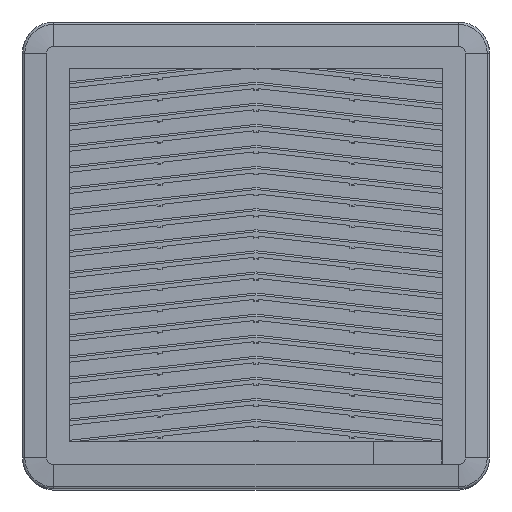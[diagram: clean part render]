
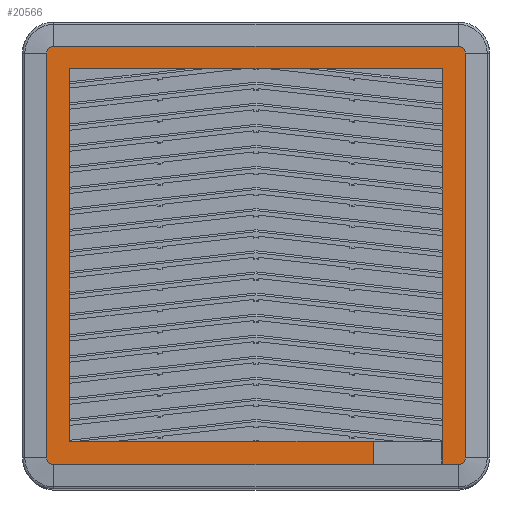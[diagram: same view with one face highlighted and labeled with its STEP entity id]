
A CAD part, front view. The second image highlights one B-rep face of the part: STEP entity #20566.
In plain terms, the highlighted planar face has unit normal (0, -1, 0) as drawn and (0, 0, 1) by its records, which use the part's own axes.
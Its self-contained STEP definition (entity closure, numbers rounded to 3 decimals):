
#304 = VECTOR ( 'NONE', #8721, 1000. ) ;
#785 = VECTOR ( 'NONE', #23267, 1000. ) ;
#1000 = ORIENTED_EDGE ( 'NONE', *, *, #29122, .T. ) ;
#1097 = CIRCLE ( 'NONE', #29845, 3. ) ;
#1974 = CARTESIAN_POINT ( 'NONE',  ( -91.3, 62.489, 3. ) ) ;
#2215 = CARTESIAN_POINT ( 'NONE',  ( -91.3, 65.489, 3. ) ) ;
#2351 = VERTEX_POINT ( 'NONE', #2430 ) ;
#2430 = CARTESIAN_POINT ( 'NONE',  ( -91.3, -114.111, 3. ) ) ;
#2565 = DIRECTION ( 'NONE',  ( 0., -1., 0. ) ) ;
#2608 = ORIENTED_EDGE ( 'NONE', *, *, #13160, .F. ) ;
#2630 = CARTESIAN_POINT ( 'NONE',  ( -81.8, 55.689, 3. ) ) ;
#2633 = VECTOR ( 'NONE', #28491, 1000. ) ;
#2856 = DIRECTION ( 'NONE',  ( 1., 0., 0. ) ) ;
#3028 = LINE ( 'NONE', #14469, #785 ) ;
#3105 = CARTESIAN_POINT ( 'NONE',  ( 88.3, -117.111, 3. ) ) ;
#3436 = DIRECTION ( 'NONE',  ( 0., -1., 0. ) ) ;
#4520 = VERTEX_POINT ( 'NONE', #6760 ) ;
#4966 = VECTOR ( 'NONE', #19858, 1000. ) ;
#5181 = AXIS2_PLACEMENT_3D ( 'NONE', #27567, #30753, #18934 ) ;
#5358 = EDGE_CURVE ( 'NONE', #30641, #22935, #11436, .T. ) ;
#5418 = DIRECTION ( 'NONE',  ( -1., 0., 0. ) ) ;
#6237 = VECTOR ( 'NONE', #5418, 1000. ) ;
#6264 = CARTESIAN_POINT ( 'NONE',  ( -91.3, -25.811, 3. ) ) ;
#6760 = CARTESIAN_POINT ( 'NONE',  ( 91.3, -114.111, 3. ) ) ;
#6806 = VERTEX_POINT ( 'NONE', #3105 ) ;
#6821 = LINE ( 'NONE', #6264, #36109 ) ;
#7233 = LINE ( 'NONE', #36423, #25306 ) ;
#8499 = DIRECTION ( 'NONE',  ( 1., 0., 0. ) ) ;
#8578 = VECTOR ( 'NONE', #36906, 1000. ) ;
#8721 = DIRECTION ( 'NONE',  ( 0., 1., 0. ) ) ;
#9033 = VERTEX_POINT ( 'NONE', #15593 ) ;
#9385 = VERTEX_POINT ( 'NONE', #9924 ) ;
#9924 = CARTESIAN_POINT ( 'NONE',  ( 51.1, -117.011, 3. ) ) ;
#10173 = LINE ( 'NONE', #21582, #8578 ) ;
#10523 = LINE ( 'NONE', #2630, #2633 ) ;
#10730 = ORIENTED_EDGE ( 'NONE', *, *, #23249, .T. ) ;
#11436 = LINE ( 'NONE', #25331, #4966 ) ;
#11664 = VERTEX_POINT ( 'NONE', #18405 ) ;
#11763 = EDGE_CURVE ( 'NONE', #9385, #31133, #10173, .T. ) ;
#12115 = ORIENTED_EDGE ( 'NONE', *, *, #5358, .T. ) ;
#12322 = ORIENTED_EDGE ( 'NONE', *, *, #24894, .T. ) ;
#12521 = CIRCLE ( 'NONE', #17265, 3. ) ;
#12796 = ORIENTED_EDGE ( 'NONE', *, *, #22439, .T. ) ;
#13160 = EDGE_CURVE ( 'NONE', #14794, #24405, #3028, .T. ) ;
#13614 = AXIS2_PLACEMENT_3D ( 'NONE', #2215, #34047, #2565 ) ;
#14183 = PLANE ( 'NONE',  #13614 ) ;
#14469 = CARTESIAN_POINT ( 'NONE',  ( -81.3, -107.611, 3. ) ) ;
#14766 = CARTESIAN_POINT ( 'NONE',  ( -91.3, -117.011, 3. ) ) ;
#14794 = VERTEX_POINT ( 'NONE', #21434 ) ;
#14871 = ORIENTED_EDGE ( 'NONE', *, *, #36659, .F. ) ;
#15593 = CARTESIAN_POINT ( 'NONE',  ( 81.3, 55.689, 3. ) ) ;
#16453 = FACE_BOUND ( 'NONE', #36270, .T. ) ;
#16549 = AXIS2_PLACEMENT_3D ( 'NONE', #19780, #19422, #30885 ) ;
#16571 = LINE ( 'NONE', #34156, #35012 ) ;
#16616 = LINE ( 'NONE', #19769, #304 ) ;
#17116 = CIRCLE ( 'NONE', #16549, 3. ) ;
#17202 = LINE ( 'NONE', #25474, #21322 ) ;
#17265 = AXIS2_PLACEMENT_3D ( 'NONE', #25365, #36757, #2856 ) ;
#18039 = ORIENTED_EDGE ( 'NONE', *, *, #19475, .T. ) ;
#18405 = CARTESIAN_POINT ( 'NONE',  ( -88.3, -117.111, 3. ) ) ;
#18580 = ORIENTED_EDGE ( 'NONE', *, *, #34452, .F. ) ;
#18921 = EDGE_CURVE ( 'NONE', #11664, #6806, #17202, .T. ) ;
#18934 = DIRECTION ( 'NONE',  ( 1., 0., 0. ) ) ;
#19422 = DIRECTION ( 'NONE',  ( 0., 0., 1. ) ) ;
#19475 = EDGE_CURVE ( 'NONE', #6806, #4520, #17116, .T. ) ;
#19769 = CARTESIAN_POINT ( 'NONE',  ( 91.3, -25.811, 3. ) ) ;
#19775 = EDGE_LOOP ( 'NONE', ( #35610, #29230, #18039, #10730, #1000, #12115, #12796, #12322 ) ) ;
#19780 = CARTESIAN_POINT ( 'NONE',  ( 88.3, -114.111, 3. ) ) ;
#19858 = DIRECTION ( 'NONE',  ( -1., 0., 0. ) ) ;
#20566 = ADVANCED_FACE ( 'NONE', ( #34395, #16453 ), #14183, .T. ) ;
#21139 = ORIENTED_EDGE ( 'NONE', *, *, #23646, .F. ) ;
#21322 = VECTOR ( 'NONE', #28645, 1000. ) ;
#21434 = CARTESIAN_POINT ( 'NONE',  ( -81.3, 55.689, 3. ) ) ;
#21582 = CARTESIAN_POINT ( 'NONE',  ( 51.1, 65.489, 3. ) ) ;
#22332 = ORIENTED_EDGE ( 'NONE', *, *, #32803, .T. ) ;
#22439 = EDGE_CURVE ( 'NONE', #22935, #34377, #12521, .T. ) ;
#22811 = LINE ( 'NONE', #14766, #6237 ) ;
#22935 = VERTEX_POINT ( 'NONE', #27671 ) ;
#23249 = EDGE_CURVE ( 'NONE', #4520, #24806, #16616, .T. ) ;
#23267 = DIRECTION ( 'NONE',  ( 0., -1., 0. ) ) ;
#23646 = EDGE_CURVE ( 'NONE', #24405, #31133, #16571, .T. ) ;
#24405 = VERTEX_POINT ( 'NONE', #26924 ) ;
#24693 = CARTESIAN_POINT ( 'NONE',  ( 51.1, -106.811, 3. ) ) ;
#24748 = CARTESIAN_POINT ( 'NONE',  ( 88.3, 65.489, 3. ) ) ;
#24806 = VERTEX_POINT ( 'NONE', #28018 ) ;
#24894 = EDGE_CURVE ( 'NONE', #34377, #2351, #6821, .T. ) ;
#25306 = VECTOR ( 'NONE', #27283, 1000. ) ;
#25331 = CARTESIAN_POINT ( 'NONE',  ( 0., 65.489, 3. ) ) ;
#25365 = CARTESIAN_POINT ( 'NONE',  ( -88.3, 62.489, 3. ) ) ;
#25474 = CARTESIAN_POINT ( 'NONE',  ( 0., -117.111, 3. ) ) ;
#25512 = CARTESIAN_POINT ( 'NONE',  ( -88.3, -114.111, 3. ) ) ;
#26924 = CARTESIAN_POINT ( 'NONE',  ( -81.3, -106.811, 3. ) ) ;
#27283 = DIRECTION ( 'NONE',  ( 0., 1., 0. ) ) ;
#27567 = CARTESIAN_POINT ( 'NONE',  ( 88.3, 62.489, 3. ) ) ;
#27671 = CARTESIAN_POINT ( 'NONE',  ( -88.3, 65.489, 3. ) ) ;
#28018 = CARTESIAN_POINT ( 'NONE',  ( 91.3, 62.489, 3. ) ) ;
#28491 = DIRECTION ( 'NONE',  ( -1., 0., 0. ) ) ;
#28645 = DIRECTION ( 'NONE',  ( 1., 0., 0. ) ) ;
#28682 = DIRECTION ( 'NONE',  ( 0., 0., 1. ) ) ;
#29025 = VERTEX_POINT ( 'NONE', #31929 ) ;
#29122 = EDGE_CURVE ( 'NONE', #24806, #30641, #31505, .T. ) ;
#29230 = ORIENTED_EDGE ( 'NONE', *, *, #18921, .T. ) ;
#29845 = AXIS2_PLACEMENT_3D ( 'NONE', #25512, #28682, #32051 ) ;
#30641 = VERTEX_POINT ( 'NONE', #24748 ) ;
#30753 = DIRECTION ( 'NONE',  ( 0., 0., 1. ) ) ;
#30885 = DIRECTION ( 'NONE',  ( 1., 0., 0. ) ) ;
#31133 = VERTEX_POINT ( 'NONE', #24693 ) ;
#31505 = CIRCLE ( 'NONE', #5181, 3. ) ;
#31929 = CARTESIAN_POINT ( 'NONE',  ( 81.3, -117.011, 3. ) ) ;
#32051 = DIRECTION ( 'NONE',  ( 1., 0., 0. ) ) ;
#32179 = EDGE_CURVE ( 'NONE', #2351, #11664, #1097, .T. ) ;
#32803 = EDGE_CURVE ( 'NONE', #29025, #9385, #22811, .T. ) ;
#34047 = DIRECTION ( 'NONE',  ( 0., 0., 1. ) ) ;
#34156 = CARTESIAN_POINT ( 'NONE',  ( 81.8, -106.811, 3. ) ) ;
#34377 = VERTEX_POINT ( 'NONE', #1974 ) ;
#34395 = FACE_OUTER_BOUND ( 'NONE', #19775, .T. ) ;
#34452 = EDGE_CURVE ( 'NONE', #29025, #9033, #7233, .T. ) ;
#35012 = VECTOR ( 'NONE', #8499, 1000. ) ;
#35610 = ORIENTED_EDGE ( 'NONE', *, *, #32179, .T. ) ;
#36109 = VECTOR ( 'NONE', #3436, 1000. ) ;
#36270 = EDGE_LOOP ( 'NONE', ( #18580, #22332, #36291, #21139, #2608, #14871 ) ) ;
#36291 = ORIENTED_EDGE ( 'NONE', *, *, #11763, .T. ) ;
#36423 = CARTESIAN_POINT ( 'NONE',  ( 81.3, 58.863, 3. ) ) ;
#36659 = EDGE_CURVE ( 'NONE', #9033, #14794, #10523, .T. ) ;
#36757 = DIRECTION ( 'NONE',  ( 0., 0., 1. ) ) ;
#36906 = DIRECTION ( 'NONE',  ( 0., 1., 0. ) ) ;
